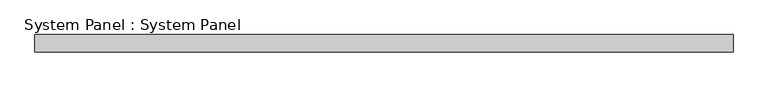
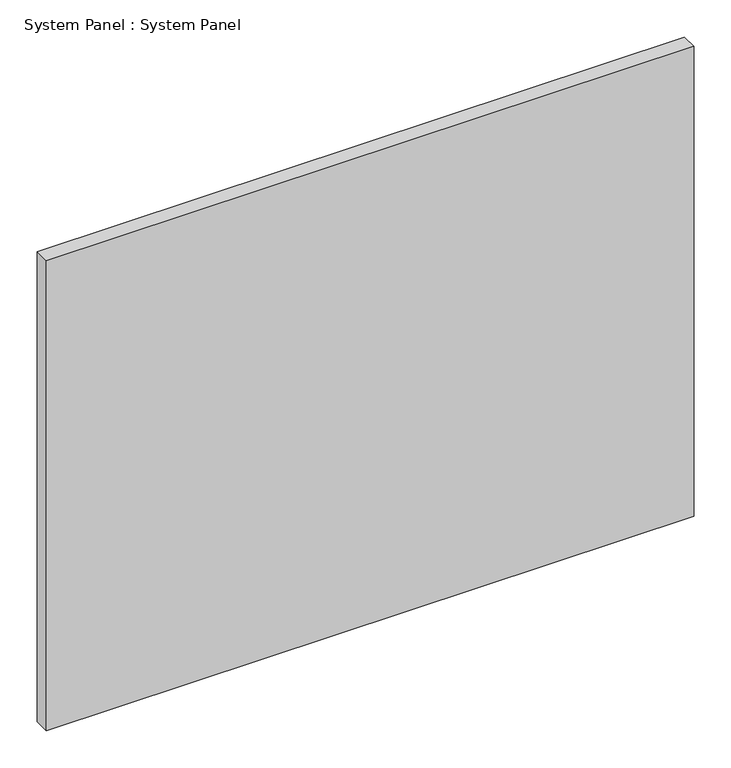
"""IFC4 building model written with IfcOpenShell, lengths in millimetres: plate geometry, System Panel : System Panel."""

from ifc_helpers import new_model, si_unit, origin, origin_with_axes, place, context, project, spatial, polyline, outline, extrude, source, transform, mapped, element, save


def system_panel_system_panel_1b284ea7(model_context):
    return source(origin(), model_context, "Body", "SweptSolid", [
        extrude(outline(polyline([(504.825, 19.05), (-504.825, 19.05), (-504.825, 44.45), (504.825, 44.45), (504.825, 19.05)])), origin_with_axes(), (0.0, 0.0, 1.0), 774.7),
    ])


if __name__ == "__main__":
    model = new_model("IFC4")
    model_context = context("Model", 3, world=origin())
    ifc_project = project(units=[si_unit("LENGTHUNIT", "METRE", prefix="MILLI")], contexts=[model_context])
    site = spatial("IfcSite", under=ifc_project)
    building = spatial("IfcBuilding", under=site)
    placement = place(None, origin())
    system_panel_system_panel_shape = system_panel_system_panel_1b284ea7(model_context)
    element("IfcPlate", 1, ObjectType="System Panel : System Panel", at=placement, inside=building, context=model_context, shape_type="MappedRepresentation", body=[
        mapped(system_panel_system_panel_shape, transform((0.0, 0.0, 0.0), x_axis=(1.0, 0.0, 0.0), y_axis=(0.0, 1.0, 0.0), z_axis=(0.0, 0.0, 1.0))),
    ])
    save(model, "model.ifc")
